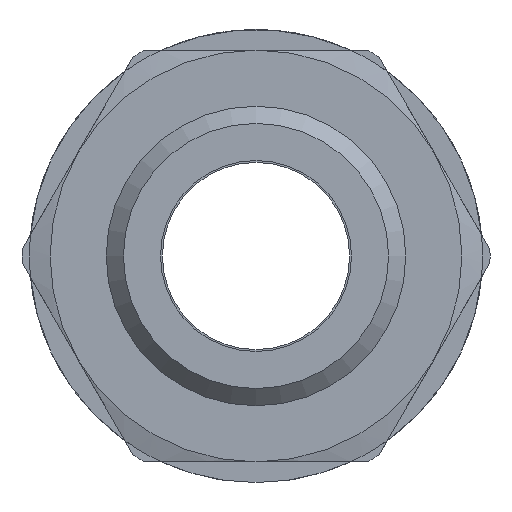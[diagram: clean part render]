
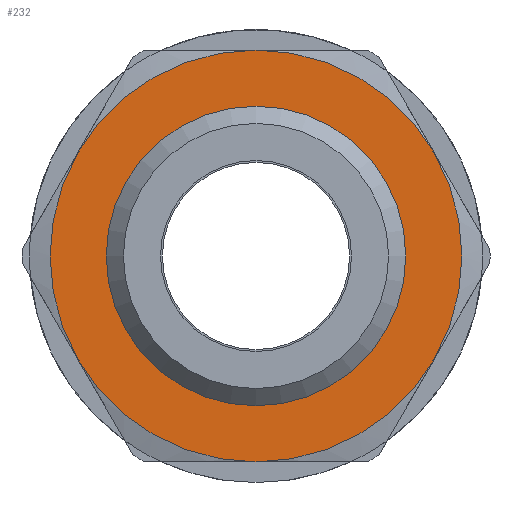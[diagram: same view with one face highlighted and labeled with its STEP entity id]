
A CAD part, front view. The second image highlights one B-rep face of the part: STEP entity #232.
In plain terms, the highlighted planar face has unit normal (0, -1, 0) as drawn and (1, 0, 0) by its records, which use the part's own axes.
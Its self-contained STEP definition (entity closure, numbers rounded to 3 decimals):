
#232 = ADVANCED_FACE( '', ( #469, #470 ), #471, .F. );
#469 = FACE_BOUND( '', #715, .T. );
#470 = FACE_OUTER_BOUND( '', #716, .T. );
#471 = PLANE( '', #717 );
#715 = EDGE_LOOP( '', ( #1193 ) );
#716 = EDGE_LOOP( '', ( #1194, #1195, #1196, #1197, #1198, #1199 ) );
#717 = AXIS2_PLACEMENT_3D( '', #1200, #1201, #1202 );
#1193 = ORIENTED_EDGE( '', *, *, #1559, .F. );
#1194 = ORIENTED_EDGE( '', *, *, #1442, .T. );
#1195 = ORIENTED_EDGE( '', *, *, #1560, .T. );
#1196 = ORIENTED_EDGE( '', *, *, #1433, .T. );
#1197 = ORIENTED_EDGE( '', *, *, #1561, .T. );
#1198 = ORIENTED_EDGE( '', *, *, #1385, .T. );
#1199 = ORIENTED_EDGE( '', *, *, #1562, .T. );
#1200 = CARTESIAN_POINT( '', ( 5., 11., 0. ) );
#1201 = DIRECTION( '', ( -1., 0., 0. ) );
#1202 = DIRECTION( '', ( 0., 0., 1. ) );
#1385 = EDGE_CURVE( '', #1615, #1612, #1616, .T. );
#1433 = EDGE_CURVE( '', #1700, #1697, #1701, .T. );
#1442 = EDGE_CURVE( '', #1715, #1712, #1716, .T. );
#1559 = EDGE_CURVE( '', #1880, #1880, #1881, .T. );
#1560 = EDGE_CURVE( '', #1712, #1700, #1882, .T. );
#1561 = EDGE_CURVE( '', #1697, #1615, #1883, .T. );
#1562 = EDGE_CURVE( '', #1612, #1715, #1884, .T. );
#1612 = VERTEX_POINT( '', #1955 );
#1615 = VERTEX_POINT( '', #1961 );
#1616 = CIRCLE( '', #1962, 11. );
#1697 = VERTEX_POINT( '', #2090 );
#1700 = VERTEX_POINT( '', #2096 );
#1701 = CIRCLE( '', #2097, 11. );
#1712 = VERTEX_POINT( '', #2112 );
#1715 = VERTEX_POINT( '', #2118 );
#1716 = CIRCLE( '', #2119, 11. );
#1880 = VERTEX_POINT( '', #2374 );
#1881 = CIRCLE( '', #2375, 8. );
#1882 = CIRCLE( '', #2376, 11. );
#1883 = CIRCLE( '', #2377, 11. );
#1884 = CIRCLE( '', #2378, 11. );
#1955 = CARTESIAN_POINT( '', ( 5., -9.526, -5.5 ) );
#1961 = CARTESIAN_POINT( '', ( 5., -9.526, 5.5 ) );
#1962 = AXIS2_PLACEMENT_3D( '', #2436, #2437, #2438 );
#2090 = CARTESIAN_POINT( '', ( 5., 0., 11. ) );
#2096 = CARTESIAN_POINT( '', ( 5., 9.526, 5.5 ) );
#2097 = AXIS2_PLACEMENT_3D( '', #2503, #2504, #2505 );
#2112 = CARTESIAN_POINT( '', ( 5., 9.526, -5.5 ) );
#2118 = CARTESIAN_POINT( '', ( 5., 0., -11. ) );
#2119 = AXIS2_PLACEMENT_3D( '', #2516, #2517, #2518 );
#2374 = CARTESIAN_POINT( '', ( 5., 0., -8. ) );
#2375 = AXIS2_PLACEMENT_3D( '', #2662, #2663, #2664 );
#2376 = AXIS2_PLACEMENT_3D( '', #2665, #2666, #2667 );
#2377 = AXIS2_PLACEMENT_3D( '', #2668, #2669, #2670 );
#2378 = AXIS2_PLACEMENT_3D( '', #2671, #2672, #2673 );
#2436 = CARTESIAN_POINT( '', ( 5., 0., 0. ) );
#2437 = DIRECTION( '', ( 1., 0., 0. ) );
#2438 = DIRECTION( '', ( 0., 0., -1. ) );
#2503 = CARTESIAN_POINT( '', ( 5., 0., 0. ) );
#2504 = DIRECTION( '', ( 1., 0., 0. ) );
#2505 = DIRECTION( '', ( 0., 0., -1. ) );
#2516 = CARTESIAN_POINT( '', ( 5., 0., 0. ) );
#2517 = DIRECTION( '', ( 1., 0., 0. ) );
#2518 = DIRECTION( '', ( 0., 0., -1. ) );
#2662 = CARTESIAN_POINT( '', ( 5., 0., 0. ) );
#2663 = DIRECTION( '', ( 1., 0., 0. ) );
#2664 = DIRECTION( '', ( 0., 0., -1. ) );
#2665 = CARTESIAN_POINT( '', ( 5., 0., 0. ) );
#2666 = DIRECTION( '', ( 1., 0., 0. ) );
#2667 = DIRECTION( '', ( 0., 0., -1. ) );
#2668 = CARTESIAN_POINT( '', ( 5., 0., 0. ) );
#2669 = DIRECTION( '', ( 1., 0., 0. ) );
#2670 = DIRECTION( '', ( 0., 0., -1. ) );
#2671 = CARTESIAN_POINT( '', ( 5., 0., 0. ) );
#2672 = DIRECTION( '', ( 1., 0., 0. ) );
#2673 = DIRECTION( '', ( 0., 0., -1. ) );
